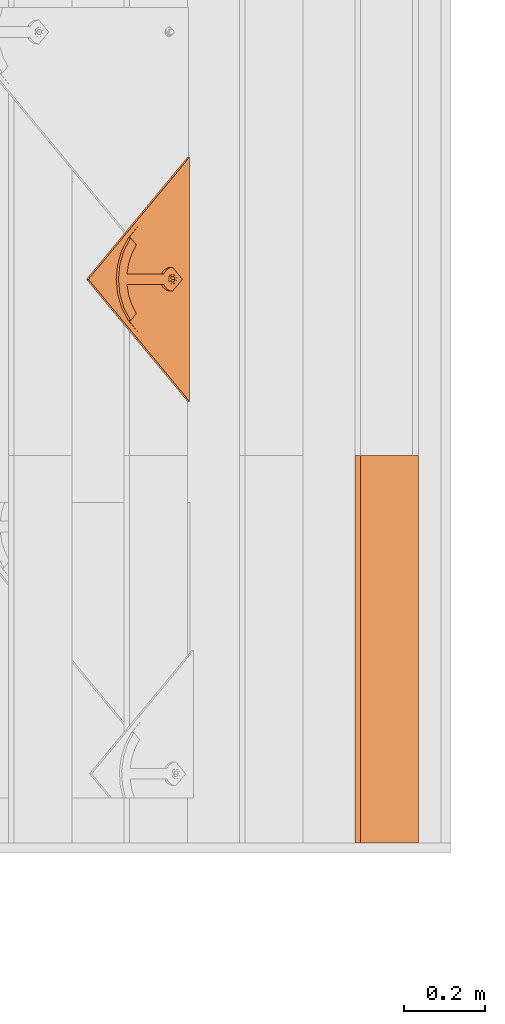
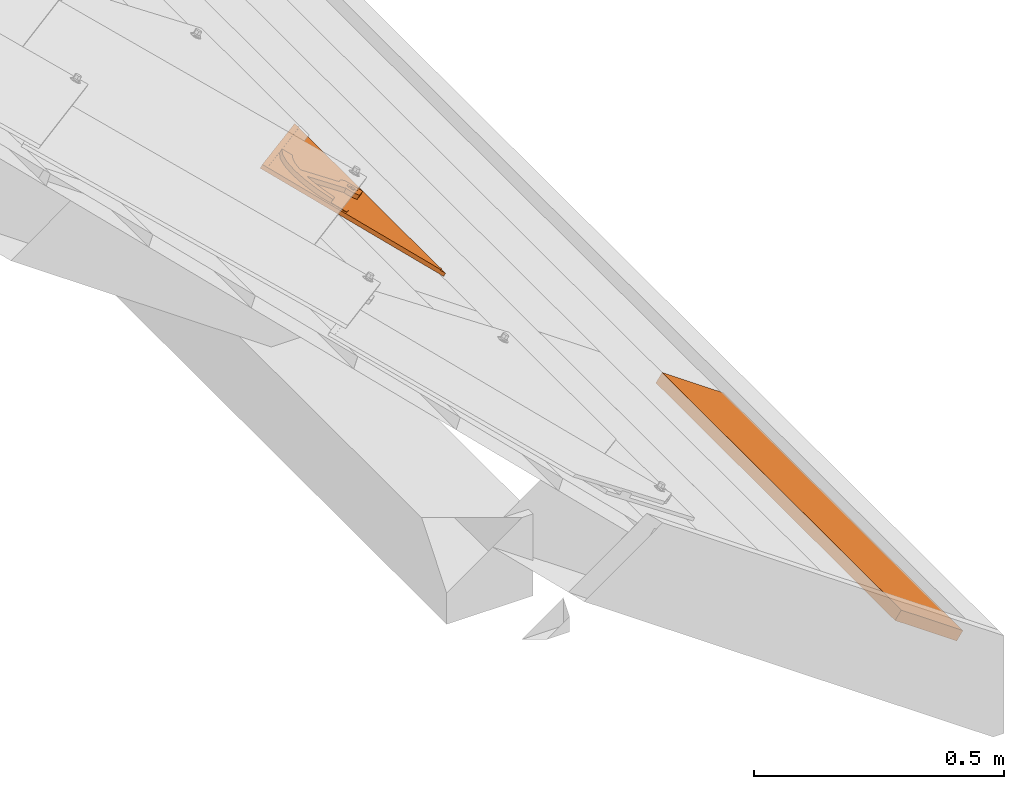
# One storey, part 128 of 151: 2 proxies, 1 element without a shape of its own.
"""IFC2X3 building model written with IfcOpenShell, lengths in millimetres."""

from ifc_helpers import new_model, entity, si_unit, converted_unit, derived_unit, direction, frame, frame_2d, origin, place, context, subcontext, project, spatial, rectangle, extrude, faceted_brep, source, transform, mapped, material, material_list, type_object, type_shapes, element, aggregate, save


model = new_model("IFC2X3")

# Units and contexts
model_context = context("Model", 3, precision=0.01, world=origin(), true_north=direction((6.12303176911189e-17, 1.0)))
body_context = subcontext(model_context, "Body", "Model", "MODEL_VIEW")
ifc_project = project(units=[si_unit("LENGTHUNIT", "METRE", prefix="MILLI"), si_unit("AREAUNIT", "SQUARE_METRE"), si_unit("VOLUMEUNIT", "CUBIC_METRE"), converted_unit("PLANEANGLEUNIT", "DEGREE", entity("IfcRatioMeasure", 0.0174532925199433), si_unit("PLANEANGLEUNIT", "RADIAN"), dimensions=[0, 0, 0, 0, 0, 0, 0]), si_unit("MASSUNIT", "GRAM", prefix="KILO"), derived_unit("MASSDENSITYUNIT", [(si_unit("MASSUNIT", "GRAM", prefix="KILO"), 1), (si_unit("LENGTHUNIT", "METRE"), -3)]), si_unit("TIMEUNIT", "SECOND"), si_unit("FREQUENCYUNIT", "HERTZ"), si_unit("THERMODYNAMICTEMPERATUREUNIT", "DEGREE_CELSIUS"), derived_unit("THERMALTRANSMITTANCEUNIT", [(si_unit("MASSUNIT", "GRAM", prefix="KILO"), 1), (si_unit("THERMODYNAMICTEMPERATUREUNIT", "KELVIN"), -1), (si_unit("TIMEUNIT", "SECOND"), -3)]), derived_unit("VOLUMETRICFLOWRATEUNIT", [(si_unit("LENGTHUNIT", "METRE"), 3), (si_unit("TIMEUNIT", "SECOND"), -1)]), si_unit("ELECTRICCURRENTUNIT", "AMPERE"), si_unit("ELECTRICVOLTAGEUNIT", "VOLT"), si_unit("POWERUNIT", "WATT"), si_unit("FORCEUNIT", "NEWTON", prefix="KILO"), si_unit("ILLUMINANCEUNIT", "LUX"), si_unit("LUMINOUSFLUXUNIT", "LUMEN"), si_unit("LUMINOUSINTENSITYUNIT", "CANDELA"), derived_unit("USERDEFINED", [(si_unit("MASSUNIT", "GRAM", prefix="KILO"), -1), (si_unit("LENGTHUNIT", "METRE"), -2), (si_unit("TIMEUNIT", "SECOND"), 3), (si_unit("LUMINOUSFLUXUNIT", "LUMEN"), 1)]), derived_unit("LINEARVELOCITYUNIT", [(si_unit("LENGTHUNIT", "METRE"), 1), (si_unit("TIMEUNIT", "SECOND"), -1)]), si_unit("PRESSUREUNIT", "PASCAL"), derived_unit("USERDEFINED", [(si_unit("LENGTHUNIT", "METRE"), -2), (si_unit("MASSUNIT", "GRAM", prefix="KILO"), 1), (si_unit("TIMEUNIT", "SECOND"), -2)])], contexts=[model_context])

# Site, building, storey
site_placement = place(None, origin())
site = spatial("IfcSite", under=ifc_project, at=site_placement, Name="Default", CompositionType="ELEMENT")
building_placement = place(site_placement, origin())
building = spatial("IfcBuilding", under=site, at=building_placement, CompositionType="ELEMENT")
storey_placement = place(building_placement, origin())
storey = spatial("IfcBuildingStorey", under=building, at=storey_placement, Name="Level 1", CompositionType="ELEMENT", Elevation=0.0)

# Assembly, proxy
assembly_placement = place(storey_placement, origin())
assembly = element("IfcElementAssembly", 1, at=assembly_placement, inside=storey, Name="Structural Framing Assembly:Roof Construction Assembly", ObjectType="Structural Framing Assembly:Roof Construction Assembly", AssemblyPlace="NOTDEFINED", PredefinedType="USERDEFINED")
ifc_material_1 = material(Name="Wood - Generic - Wood For Showcase")
building_element_proxy_type_1 = type_object("IfcBuildingElementProxyType", Name="Structural Framing 15", PredefinedType="NOTDEFINED", material=ifc_material_1)
shared_shape_1 = source(origin(), body_context, "Body", "SweptSolid", [
    extrude(rectangle(XDim=24.9999999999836, YDim=174.344679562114, at=frame_2d((3.79252185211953e-13, 7.105427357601e-14), x_axis=(1.0, 0.0))), frame((1285.3560130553, 2967.09519417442, 2760.23940055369), z_axis=(0.0, 1.0, 0.0), x_axis=(0.573576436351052, 0.0, 0.819152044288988)), (0.0, 0.0, 1.0), 958.455607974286),
])
type_shapes(building_element_proxy_type_1, [shared_shape_1])
proxy_1_placement = place(assembly_placement, frame((3770.67268864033, -9670.0, -2600.0)))
proxy_1 = element("IfcBuildingElementProxy", 2, at=proxy_1_placement, type_object=building_element_proxy_type_1, material=ifc_material_1, Name="Structural Framing 289:Structural Framing 15", ObjectType="Structural Framing 289:Structural Framing 15", context=body_context, shape_type="MappedRepresentation", body=[
    mapped(shared_shape_1, transform((0.0, 0.0, 0.0), scale=1.0)),
])
aggregate(assembly, [proxy_1])

# Proxy
ifc_material_2 = material(Name="Rubber - Sunstyle - Black")
ifc_material_3 = material(Name="Glass - Sunstyle - Tainted Black")
ifc_material_list_1 = material_list([ifc_material_2, ifc_material_3])
ifc_material_list_2 = material_list([ifc_material_2, ifc_material_3])
building_element_proxy_type_2 = type_object("IfcBuildingElementProxyType", Name="Shingle Bottom Small - Black", PredefinedType="NOTDEFINED", material=ifc_material_list_2)
shared_shape_2 = source(origin(), body_context, "Body", "Brep", [
    faceted_brep([(302.08842791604, 44.9093317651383, 22.0558382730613), (302.08842791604, 49.408700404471, 21.980485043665), (293.484723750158, 48.4726030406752, 21.9961623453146), (310.692132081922, 48.4726030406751, 21.9961623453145), (308.728656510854, 53.2419006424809, 21.9162884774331), (314.255903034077, 57.0751008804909, 21.8520919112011), (308.728656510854, 60.9083011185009, 21.7878953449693), (310.692132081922, 65.6775987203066, 21.7080214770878), (302.08842791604, 64.7415013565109, 21.7236987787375), (302.08842791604, 69.2408699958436, 21.6483455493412), (293.484723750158, 65.6775987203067, 21.708021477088), (295.448199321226, 60.908301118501, 21.7878953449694), (289.920952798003, 57.0751008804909, 21.8520919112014), (295.448199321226, 53.2419006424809, 21.9162884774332), (295.448199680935, 60.6403782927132, 5.79013870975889), (302.08842791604, 64.473578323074, 5.72594214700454), (295.448199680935, 52.9739782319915, 5.91853183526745), (302.08842791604, 49.1407782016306, 5.98272839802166), (308.728656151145, 52.9739782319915, 5.91853183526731), (308.728656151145, 60.6403782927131, 5.79013870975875), (293.484723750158, 48.2046804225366, 5.99840570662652), (302.08842791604, 44.6414091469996, 6.05808163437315), (289.920952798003, 56.8071782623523, 5.85433527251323), (293.484723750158, 65.4096761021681, 5.71026483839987), (302.08842791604, 68.972947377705, 5.65058891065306), (310.692132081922, 65.409676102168, 5.71026483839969), (314.255903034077, 56.8071782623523, 5.85433527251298), (310.692132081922, 48.2046804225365, 5.99840570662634)], [[[0, 1, 2]], [[1, 0, 3]], [[3, 4, 1]], [[4, 3, 5]], [[6, 4, 5]], [[5, 7, 6]], [[7, 8, 6]], [[8, 7, 9]], [[8, 9, 10]], [[10, 11, 8]], [[12, 11, 10]], [[2, 13, 12]], [[12, 13, 11]], [[13, 2, 1]], [[8, 11, 14, 15]], [[11, 13, 16, 14]], [[13, 1, 17, 16]], [[1, 4, 18, 17]], [[4, 6, 19, 18]], [[6, 8, 15, 19]], [[20, 17, 21]], [[17, 20, 16]], [[22, 16, 20]], [[14, 16, 22]], [[23, 14, 22]], [[15, 14, 23]], [[23, 24, 15]], [[24, 25, 15]], [[19, 15, 25]], [[19, 25, 26]], [[26, 18, 19]], [[26, 27, 18]], [[17, 18, 27]], [[27, 21, 17]], [[24, 23, 10, 9]], [[10, 23, 22, 12]], [[20, 21, 0, 2]], [[20, 2, 12, 22]], [[21, 27, 3, 0]], [[3, 27, 26, 5]], [[25, 24, 9, 7]], [[25, 7, 5, 26]]]),
    faceted_brep([(587.35835892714, 0.0, 12.5593198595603), (595.843045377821, 8.4846864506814, 12.4172224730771), (595.843045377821, 8.50980419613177, 13.9170121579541), (587.35835892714, 0.0251177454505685, 14.0591095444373), (302.088750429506, 285.189618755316, 7.7831033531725), (16.8191419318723, 0.0, 12.5593198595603), (8.33445548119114, 8.48468645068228, 12.4172224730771), (302.088750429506, 302.156612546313, 7.49894842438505), (302.088750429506, 302.181730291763, 8.9987381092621), (8.33445548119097, 8.50980419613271, 13.9170121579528), (16.8191419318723, 0.0251177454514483, 14.0591095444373), (302.088750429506, 285.214736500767, 9.28289303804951)], [[[0, 1, 2, 3]], [[1, 0, 4, 5, 6, 7]], [[2, 1, 7, 8]], [[3, 2, 8, 9, 10, 11]], [[0, 3, 11, 4]], [[5, 10, 9, 6]], [[8, 7, 6, 9]], [[4, 11, 10, 5]]]),
    faceted_brep([(302.088750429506, 302.156612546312, 7.49894842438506), (305.194256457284, 68.3255429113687, 11.4150370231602), (308.088427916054, 67.1269059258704, 11.4351112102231), (302.088427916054, 68.7343756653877, 11.4081900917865), (310.573709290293, 65.2201498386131, 11.4670446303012), (298.982599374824, 68.3255429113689, 11.4150370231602), (296.088427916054, 67.1269059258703, 11.4351112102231), (293.603146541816, 65.2201498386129, 11.4670446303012), (312.480732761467, 62.7352169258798, 11.5086610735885), (604.177500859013, 0.152567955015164, 12.5567647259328), (291.696123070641, 62.7352169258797, 11.5086610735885), (0.0, 0.152567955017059, 12.5567647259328), (290.497318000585, 59.8414512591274, 11.5571244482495), (290.088427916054, 56.7360581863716, 11.6091320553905), (290.497318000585, 53.6306651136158, 11.6611396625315), (291.696123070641, 50.7368994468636, 11.7096030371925), (293.603146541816, 48.2519665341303, 11.7512194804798), (296.088427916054, 46.3452104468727, 11.7831529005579), (298.982599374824, 45.1465734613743, 11.8032270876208), (302.088427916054, 44.7377407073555, 11.8100740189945), (313.679537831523, 59.8414512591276, 11.5571244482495), (314.088427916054, 56.7360581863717, 11.6091320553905), (313.679537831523, 53.6306651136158, 11.6611396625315), (312.480732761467, 50.7368994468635, 11.7096030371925), (310.573709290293, 48.2519665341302, 11.7512194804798), (308.088427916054, 46.3452104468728, 11.7831529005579), (305.194256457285, 45.1465734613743, 11.8032270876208), (0.0, 0.0269792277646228, 5.0578163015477), (290.088427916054, 56.6104694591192, 4.11018363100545), (290.497318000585, 53.5050763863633, 4.16219123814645), (290.497318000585, 59.7158625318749, 4.05817602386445), (291.696123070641, 50.6113107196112, 4.21065461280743), (291.696123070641, 62.6096281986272, 4.00971264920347), (302.088750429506, 302.031023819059, 0.0), (293.603146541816, 48.1263778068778, 4.25227105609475), (296.088427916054, 46.2196217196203, 4.28420447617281), (298.982599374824, 45.0209847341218, 4.30427866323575), (302.088427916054, 44.612151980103, 4.31112559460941), (604.177500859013, 0.0269792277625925, 5.05781630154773), (293.603146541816, 65.0945611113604, 3.96809620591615), (296.088427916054, 67.0013171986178, 3.93616278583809), (298.982599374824, 68.1999541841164, 3.91608859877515), (302.088427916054, 68.6087869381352, 3.90924166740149), (305.194256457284, 68.1999541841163, 3.91608859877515), (308.088427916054, 67.0013171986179, 3.93616278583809), (310.573709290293, 65.0945611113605, 3.96809620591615), (312.480732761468, 62.6096281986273, 4.00971264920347), (305.194256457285, 45.0209847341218, 4.30427866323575), (308.088427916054, 46.2196217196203, 4.28420447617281), (313.679537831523, 59.7158625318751, 4.05817602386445), (314.088427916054, 56.6104694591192, 4.11018363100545), (313.679537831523, 53.5050763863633, 4.16219123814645), (312.480732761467, 50.611310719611, 4.21065461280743), (310.573709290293, 48.1263778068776, 4.25227105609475)], [[[0, 1, 2]], [[1, 0, 3]], [[0, 2, 4]], [[5, 3, 0]], [[6, 5, 0]], [[0, 7, 6]], [[8, 0, 4]], [[0, 8, 9]], [[7, 0, 10]], [[0, 11, 10]], [[12, 10, 11]], [[11, 13, 12]], [[13, 11, 14]], [[15, 14, 11]], [[11, 16, 15]], [[17, 16, 11]], [[17, 11, 18]], [[19, 18, 11]], [[19, 11, 9]], [[9, 8, 20]], [[20, 21, 9]], [[21, 22, 9]], [[22, 23, 9]], [[9, 23, 24]], [[24, 25, 9]], [[25, 26, 9]], [[9, 26, 19]], [[27, 28, 29]], [[28, 27, 30]], [[27, 29, 31]], [[32, 30, 27]], [[32, 27, 33]], [[31, 34, 27]], [[34, 35, 27]], [[35, 36, 27]], [[36, 37, 27]], [[27, 37, 38]], [[33, 39, 32]], [[40, 39, 33]], [[41, 40, 33]], [[42, 41, 33]], [[33, 43, 42]], [[43, 33, 44]], [[45, 44, 33]], [[33, 46, 45]], [[46, 33, 38]], [[38, 37, 47]], [[47, 48, 38]], [[49, 46, 38]], [[38, 50, 49]], [[50, 38, 51]], [[52, 51, 38]], [[53, 52, 38]], [[53, 38, 48]], [[11, 0, 33, 27]], [[0, 9, 38, 33]], [[13, 28, 30, 12]], [[12, 30, 32, 10]], [[6, 7, 39, 40]], [[39, 7, 10, 32]], [[5, 6, 40, 41]], [[5, 41, 42, 3]], [[3, 42, 43, 1]], [[1, 43, 44, 2]], [[8, 4, 45, 46]], [[45, 4, 2, 44]], [[20, 8, 46, 49]], [[20, 49, 50, 21]], [[21, 50, 51, 22]], [[22, 51, 52, 23]], [[25, 24, 53, 48]], [[53, 24, 23, 52]], [[26, 25, 48, 47]], [[26, 47, 37, 19]], [[19, 37, 36, 18]], [[18, 36, 35, 17]], [[15, 16, 34, 31]], [[34, 16, 17, 35]], [[14, 15, 31, 29]], [[14, 29, 28, 13]], [[9, 11, 27, 38]]]),
    faceted_brep([(190.819384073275, 138.646056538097, 12.7376939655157), (217.144031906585, 164.967013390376, 12.2968834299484), (200.060856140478, 182.04779392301, 12.0108228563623), (193.80845410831, 176.686146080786, 12.100617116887), (187.837458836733, 171.012871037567, 12.1956303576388), (173.141714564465, 156.321247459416, 12.4416784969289), (431.035141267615, 156.321247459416, 12.4416784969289), (416.339396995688, 171.012871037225, 12.1956303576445), (410.36840172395, 176.686146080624, 12.1006171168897), (404.115999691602, 182.047793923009, 12.0108228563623), (387.031626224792, 164.968210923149, 12.2968633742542), (413.357471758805, 138.646056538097, 12.7376939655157), (296.088427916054, 67.294357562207, 21.4337091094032), (288.788427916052, 83.1076295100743, 21.1688761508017), (283.384321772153, 79.569581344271, 21.2281296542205), (293.603146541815, 65.3876014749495, 21.4656425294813), (298.982599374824, 68.4929945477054, 21.4136349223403), (302.088427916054, 68.9018273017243, 21.4067879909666), (315.388427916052, 83.107629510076, 21.1688761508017), (305.194256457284, 68.4929945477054, 21.4136349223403), (308.088427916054, 67.2943575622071, 21.4337091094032), (320.792534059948, 79.5695813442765, 21.2281296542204), (310.573709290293, 65.3876014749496, 21.4656425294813), (325.293078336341, 74.9365758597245, 21.3057209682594), (312.480732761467, 62.9026685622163, 21.5072589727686), (328.672647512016, 69.4324252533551, 21.3979017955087), (313.679537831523, 60.0089028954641, 21.5557223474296), (330.767980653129, 63.323025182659, 21.500219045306), (314.088427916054, 56.9035098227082, 21.6077299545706), (331.477855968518, 56.9035098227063, 21.6077299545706), (313.679537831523, 53.7981167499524, 21.6597375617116), (312.480732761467, 50.9043510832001, 21.7082009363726), (310.573709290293, 48.4194181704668, 21.7498173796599), (302.08842791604, 27.5182024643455, 22.0998607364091), (308.088427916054, 46.5126620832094, 21.7817507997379), (305.194256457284, 45.314025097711, 21.8018249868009), (302.088427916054, 44.9051923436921, 21.8086719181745), (298.982599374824, 45.314025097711, 21.8018249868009), (296.088427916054, 46.5126620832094, 21.7817507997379), (293.603146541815, 48.4194181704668, 21.7498173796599), (272.69899986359, 56.903509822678, 21.6077299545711), (291.696123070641, 50.9043510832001, 21.7082009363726), (290.497318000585, 53.7981167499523, 21.6597375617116), (290.088427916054, 56.9035098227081, 21.6077299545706), (273.408875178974, 63.3230251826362, 21.5002190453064), (290.497318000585, 60.008902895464, 21.5557223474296), (275.504208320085, 69.4324252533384, 21.397901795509), (291.696123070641, 62.9026685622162, 21.5072589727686), (278.883777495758, 74.9365758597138, 21.3057209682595), (288.788427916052, 192.984512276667, 19.3287117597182), (315.388427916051, 192.984512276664, 19.3287117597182), (302.088427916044, 218.456125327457, 18.9021256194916), (338.579268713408, 214.282159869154, 18.9720291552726), (340.858170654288, 188.169632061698, 19.4093490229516), (373.184513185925, 201.975945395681, 19.1781276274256), (365.012761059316, 178.765998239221, 19.5668364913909), (404.115999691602, 182.173382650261, 19.5097712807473), (387.032823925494, 165.092602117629, 19.7958318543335), (265.59758711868, 214.28215986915, 18.9720291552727), (263.318685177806, 188.169632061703, 19.4093490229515), (230.992342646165, 201.975945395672, 19.1781276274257), (239.164094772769, 178.765998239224, 19.5668364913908), (200.06085614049, 182.173382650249, 19.5097712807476), (217.144031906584, 165.092602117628, 19.7958318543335), (302.08842791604, 27.3507508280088, 12.1012628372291), (302.088427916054, 44.7377407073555, 11.8100740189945), (305.194256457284, 45.1465734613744, 11.8032270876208), (298.982599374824, 45.1465734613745, 11.8032270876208), (308.088427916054, 46.3452104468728, 11.7831529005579), (310.573709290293, 48.2519665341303, 11.7512194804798), (331.477855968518, 56.7360581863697, 11.6091320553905), (296.088427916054, 46.3452104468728, 11.7831529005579), (293.603146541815, 48.2519665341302, 11.7512194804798), (272.69899986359, 56.7360581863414, 11.609132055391), (291.696123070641, 50.7368994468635, 11.7096030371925), (290.497318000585, 53.6306651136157, 11.6611396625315), (290.088427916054, 56.7360581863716, 11.6091320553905), (273.408875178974, 63.1555735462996, 11.5016211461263), (290.497318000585, 59.8414512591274, 11.5571244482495), (275.504208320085, 69.2649736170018, 11.3993038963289), (291.696123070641, 62.7352169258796, 11.5086610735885), (278.883777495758, 74.7691242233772, 11.3071230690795), (293.603146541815, 65.2201498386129, 11.4670446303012), (283.384321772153, 79.4021297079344, 11.2295317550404), (296.088427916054, 67.1269059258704, 11.4351112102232), (288.788427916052, 82.9401778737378, 11.1702782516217), (298.982599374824, 68.3255429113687, 11.4150370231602), (302.088427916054, 68.7343756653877, 11.4081900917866), (315.388427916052, 82.9401778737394, 11.1702782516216), (288.788427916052, 192.81706064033, 9.33011386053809), (315.388427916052, 192.817060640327, 9.33011386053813), (302.088427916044, 218.28867369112, 8.90352772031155), (265.59758711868, 214.114708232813, 8.97343125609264), (263.318685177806, 188.002180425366, 9.41075112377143), (230.992342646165, 201.808493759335, 9.17952972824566), (239.164094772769, 178.598546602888, 9.56823859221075), (200.06085614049, 182.005931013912, 9.51117338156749), (217.145229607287, 164.926348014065, 9.79721389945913), (193.80845410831, 176.644283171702, 9.60096764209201), (187.837458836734, 170.971008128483, 9.69598088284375), (190.819384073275, 138.604193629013, 10.2380444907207), (173.141714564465, 156.279384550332, 9.94202902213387), (338.579268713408, 214.114708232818, 8.97343125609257), (340.858170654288, 188.002180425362, 9.41075112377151), (373.184513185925, 201.808493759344, 9.17952972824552), (365.012761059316, 178.598546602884, 9.5682385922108), (404.115999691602, 182.005931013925, 9.51117338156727), (387.032823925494, 164.925150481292, 9.79723395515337), (410.36840172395, 176.64428317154, 9.60096764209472), (416.339396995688, 170.971008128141, 9.69598088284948), (413.357471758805, 138.604193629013, 10.2380444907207), (431.035141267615, 156.279384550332, 9.94202902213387), (305.194256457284, 68.3255429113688, 11.4150370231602), (308.088427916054, 67.1269059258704, 11.4351112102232), (320.792534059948, 79.4021297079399, 11.2295317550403), (310.573709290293, 65.220149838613, 11.4670446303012), (325.293078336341, 74.7691242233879, 11.3071230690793), (312.480732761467, 62.7352169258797, 11.5086610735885), (328.672647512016, 69.2649736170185, 11.3993038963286), (313.679537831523, 59.8414512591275, 11.5571244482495), (330.767980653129, 63.1555735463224, 11.5016211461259), (314.088427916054, 56.7360581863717, 11.6091320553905), (312.480732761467, 50.7368994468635, 11.7096030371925), (313.679537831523, 53.6306651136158, 11.6611396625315)], [[[0, 1, 2, 3, 4, 5]], [[6, 7, 8, 9, 10, 11]], [[12, 13, 14]], [[12, 14, 15]], [[16, 13, 12]], [[17, 13, 16]], [[18, 13, 17]], [[17, 19, 18]], [[19, 20, 18]], [[20, 21, 18]], [[21, 20, 22]], [[21, 22, 23]], [[24, 23, 22]], [[23, 24, 25]], [[24, 26, 25]], [[27, 25, 26]], [[26, 28, 27]], [[29, 27, 28]], [[28, 30, 29]], [[30, 31, 29]], [[29, 31, 32]], [[32, 33, 29]], [[32, 34, 33]], [[35, 33, 34]], [[36, 33, 35]], [[33, 36, 37]], [[38, 33, 37]], [[38, 39, 33]], [[40, 33, 39]], [[41, 40, 39]], [[41, 42, 40]], [[42, 43, 40]], [[43, 44, 40]], [[45, 44, 43]], [[45, 46, 44]], [[45, 47, 46]], [[48, 46, 47]], [[48, 47, 15]], [[48, 15, 14]], [[18, 49, 13]], [[50, 49, 18]], [[51, 49, 50]], [[50, 52, 51]], [[50, 53, 52]], [[52, 53, 54]], [[53, 55, 54]], [[56, 54, 55]], [[57, 56, 55]], [[58, 49, 51]], [[49, 58, 59]], [[60, 59, 58]], [[60, 61, 59]], [[61, 60, 62]], [[62, 63, 61]], [[64, 65, 66]], [[65, 64, 67]], [[64, 66, 68]], [[68, 69, 64]], [[64, 69, 70]], [[71, 67, 64]], [[71, 64, 72]], [[72, 64, 73]], [[73, 74, 72]], [[74, 73, 75]], [[75, 73, 76]], [[77, 76, 73]], [[76, 77, 78]], [[78, 77, 79]], [[80, 78, 79]], [[81, 80, 79]], [[82, 80, 81]], [[83, 82, 81]], [[83, 84, 82]], [[85, 84, 83]], [[85, 86, 84]], [[87, 86, 85]], [[88, 87, 85]], [[89, 88, 85]], [[88, 89, 90]], [[89, 91, 90]], [[91, 89, 92]], [[93, 92, 89]], [[92, 93, 94]], [[95, 94, 93]], [[96, 94, 95]], [[95, 97, 96]], [[97, 98, 96]], [[98, 97, 99]], [[97, 100, 99]], [[99, 100, 101]], [[90, 91, 102]], [[103, 90, 102]], [[103, 102, 104]], [[105, 103, 104]], [[106, 105, 104]], [[107, 105, 106]], [[106, 108, 107]], [[109, 107, 108]], [[110, 107, 109]], [[109, 111, 110]], [[112, 87, 88]], [[113, 112, 88]], [[114, 113, 88]], [[115, 113, 114]], [[115, 114, 116]], [[116, 117, 115]], [[117, 116, 118]], [[118, 119, 117]], [[120, 119, 118]], [[121, 120, 70]], [[120, 121, 119]], [[70, 69, 122]], [[122, 123, 70]], [[123, 121, 70]], [[13, 49, 89, 85]], [[14, 13, 85, 83]], [[48, 14, 83, 81]], [[81, 79, 46, 48]], [[44, 46, 79, 77]], [[40, 44, 77, 73]], [[33, 40, 73, 64]], [[0, 5, 101, 100]], [[29, 33, 64, 70]], [[6, 11, 110, 111]], [[27, 29, 70, 120]], [[25, 27, 120, 118]], [[118, 116, 23, 25]], [[21, 23, 116, 114]], [[18, 21, 114, 88]], [[50, 18, 88, 90]], [[9, 106, 104, 54, 56]], [[52, 54, 104, 102]], [[51, 52, 102, 91]], [[58, 51, 91, 92]], [[94, 96, 2, 62, 60]], [[60, 58, 92, 94]], [[43, 76, 78, 45]], [[45, 78, 80, 47]], [[12, 15, 82, 84]], [[80, 82, 15, 47]], [[16, 12, 84, 86]], [[87, 17, 16, 86]], [[19, 112, 113, 20]], [[20, 113, 115, 22]], [[26, 24, 117, 119]], [[115, 117, 24, 22]], [[28, 26, 119, 121]], [[19, 17, 87, 112]], [[28, 121, 123, 30]], [[30, 123, 122, 31]], [[34, 32, 69, 68]], [[122, 69, 32, 31]], [[35, 34, 68, 66]], [[65, 36, 35, 66]], [[37, 67, 71, 38]], [[38, 71, 72, 39]], [[42, 41, 74, 75]], [[72, 74, 41, 39]], [[43, 42, 75, 76]], [[37, 36, 65, 67]], [[7, 6, 111, 109]], [[7, 109, 108, 8]], [[108, 106, 9, 8]], [[11, 10, 107, 110]], [[1, 0, 100, 97]], [[2, 96, 98, 3]], [[98, 99, 4, 3]], [[5, 4, 99, 101]], [[63, 62, 2, 1]], [[56, 57, 10]], [[10, 9, 56]], [[1, 95, 61, 63]], [[1, 97, 95]], [[93, 89, 49, 59]], [[95, 93, 59, 61]], [[90, 103, 53, 50]], [[103, 105, 55, 53]], [[10, 57, 55]], [[107, 10, 105]], [[55, 105, 10]]]),
])
type_shapes(building_element_proxy_type_2, [shared_shape_2])
proxy_2_placement = place(storey_placement, frame((4560.90421878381, -5610.91941079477, 520.06932500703), z_axis=(0.573576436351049, 0.0, 0.81915204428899), x_axis=(0.0, 1.0, 0.0)))
element("IfcBuildingElementProxy", 3, at=proxy_2_placement, inside=storey, type_object=building_element_proxy_type_2, material=ifc_material_list_1, Name="Roofing_Panels_SunStyle_Tile_Shingle-Bottom-Small:Shingle Bottom Small - Black", ObjectType="Roofing_Panels_SunStyle_Tile_Shingle-Bottom-Small:Shingle Bottom Small - Black", context=body_context, shape_type="MappedRepresentation", body=[
    mapped(shared_shape_2, transform((0.0, 0.0, 0.0), scale=1.0)),
])

save(model, "model.ifc")
